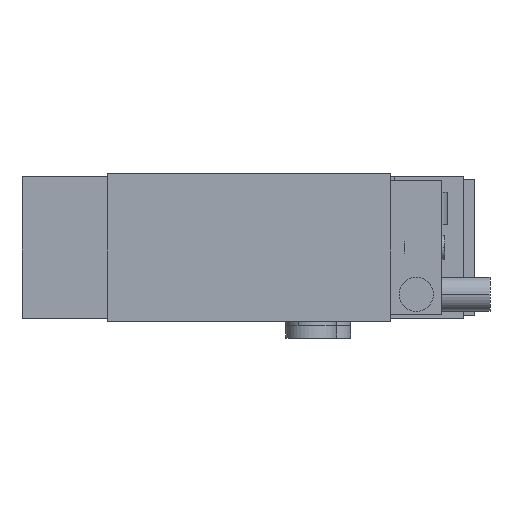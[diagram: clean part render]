
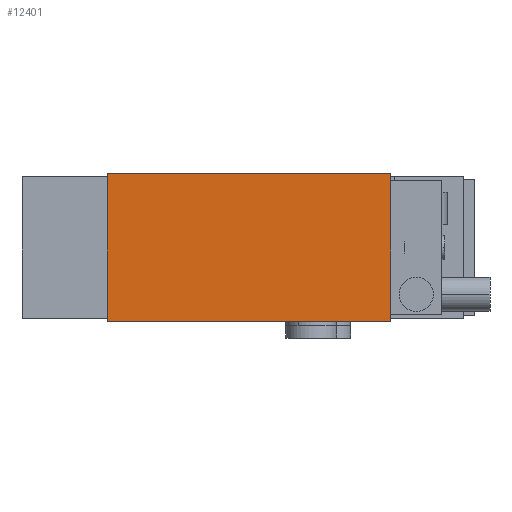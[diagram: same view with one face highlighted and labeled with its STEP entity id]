
A CAD part, front view. The second image highlights one B-rep face of the part: STEP entity #12401.
In plain terms, the highlighted planar face has unit normal (0, -1, 0).
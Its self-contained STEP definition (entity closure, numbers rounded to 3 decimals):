
#1277 = VECTOR ( 'NONE', #10547, 1000. ) ;
#1789 = VECTOR ( 'NONE', #15643, 1000. ) ;
#1847 = CARTESIAN_POINT ( 'NONE',  ( -25., -185.85, -26. ) ) ;
#2333 = EDGE_CURVE ( 'NONE', #15565, #21134, #18786, .T. ) ;
#3934 = CARTESIAN_POINT ( 'NONE',  ( 75., -185.85, 26. ) ) ;
#4189 = PLANE ( 'NONE',  #14433 ) ;
#4686 = ORIENTED_EDGE ( 'NONE', *, *, #11745, .T. ) ;
#5849 = CARTESIAN_POINT ( 'NONE',  ( -25., -185.85, -26. ) ) ;
#6784 = VECTOR ( 'NONE', #15207, 1000. ) ;
#7119 = FACE_OUTER_BOUND ( 'NONE', #18806, .T. ) ;
#7269 = LINE ( 'NONE', #1847, #17548 ) ;
#8599 = LINE ( 'NONE', #3934, #6784 ) ;
#8929 = LINE ( 'NONE', #20333, #1277 ) ;
#9175 = DIRECTION ( 'NONE',  ( 0., 0., -1. ) ) ;
#10547 = DIRECTION ( 'NONE',  ( -1., 0., 0. ) ) ;
#11359 = ORIENTED_EDGE ( 'NONE', *, *, #2333, .T. ) ;
#11745 = EDGE_CURVE ( 'NONE', #21134, #12881, #7269, .T. ) ;
#12036 = DIRECTION ( 'NONE',  ( 1., 0., 0. ) ) ;
#12401 = ADVANCED_FACE ( 'NONE', ( #7119 ), #4189, .T. ) ;
#12881 = VERTEX_POINT ( 'NONE', #16178 ) ;
#14149 = DIRECTION ( 'NONE',  ( 0., -1., 0. ) ) ;
#14433 = AXIS2_PLACEMENT_3D ( 'NONE', #15674, #14149, #9175 ) ;
#15207 = DIRECTION ( 'NONE',  ( 0., 0., 1. ) ) ;
#15565 = VERTEX_POINT ( 'NONE', #20968 ) ;
#15643 = DIRECTION ( 'NONE',  ( 0., 0., -1. ) ) ;
#15674 = CARTESIAN_POINT ( 'NONE',  ( 0., -185.85, 0. ) ) ;
#16178 = CARTESIAN_POINT ( 'NONE',  ( 75., -185.85, -26. ) ) ;
#16405 = ORIENTED_EDGE ( 'NONE', *, *, #19589, .T. ) ;
#16944 = CARTESIAN_POINT ( 'NONE',  ( -25., -185.85, 26. ) ) ;
#17548 = VECTOR ( 'NONE', #12036, 1000. ) ;
#17865 = ORIENTED_EDGE ( 'NONE', *, *, #20649, .T. ) ;
#18786 = LINE ( 'NONE', #16944, #1789 ) ;
#18806 = EDGE_LOOP ( 'NONE', ( #11359, #4686, #16405, #17865 ) ) ;
#19589 = EDGE_CURVE ( 'NONE', #12881, #19633, #8599, .T. ) ;
#19633 = VERTEX_POINT ( 'NONE', #20437 ) ;
#20333 = CARTESIAN_POINT ( 'NONE',  ( -25., -185.85, 26. ) ) ;
#20437 = CARTESIAN_POINT ( 'NONE',  ( 75., -185.85, 26. ) ) ;
#20649 = EDGE_CURVE ( 'NONE', #19633, #15565, #8929, .T. ) ;
#20968 = CARTESIAN_POINT ( 'NONE',  ( -25., -185.85, 26. ) ) ;
#21134 = VERTEX_POINT ( 'NONE', #5849 ) ;
